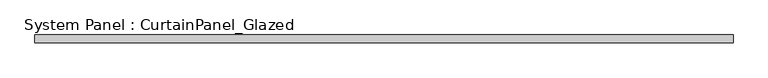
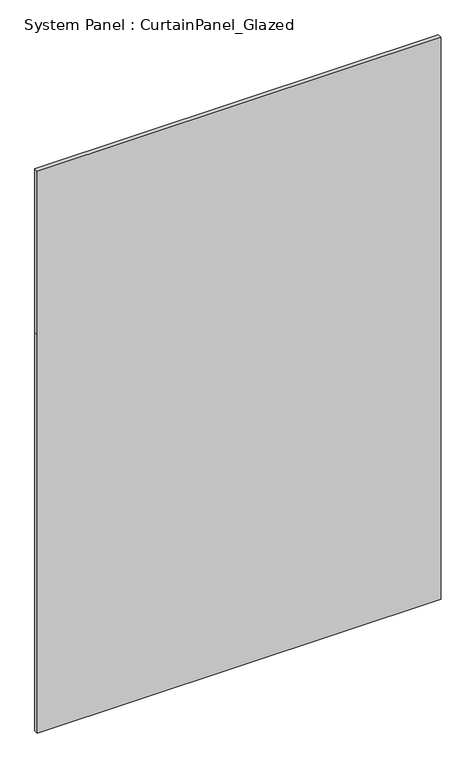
"""IFC4 building model written with IfcOpenShell, lengths in millimetres: plate geometry, System Panel : CurtainPanel_Glazed."""

from ifc_helpers import new_model, si_unit, frame, origin, place, context, project, spatial, polyline, outline, extrude, source, transform, mapped, element, save


def system_panel_curtainpanel_glazed_0bb81cda(model_context):
    return source(origin(), model_context, "Body", "SweptSolid", [
        extrude(outline(polyline([(0.0, -1138.6000001), (0.0, 1138.6000001), (2375.0, 1138.6000001), (3350.0, 1138.6000001), (3350.0, -1138.6000001), (2375.0, -1138.6000001), (0.0, -1138.6000001)])), frame((0.0, -12.5, 0.0), z_axis=(0.0, 1.0, 0.0), x_axis=(0.0, 0.0, 1.0)), (0.0, 0.0, 1.0), 25.0),
    ])


if __name__ == "__main__":
    model = new_model("IFC4")
    model_context = context("Model", 3, world=origin())
    ifc_project = project(units=[si_unit("LENGTHUNIT", "METRE", prefix="MILLI")], contexts=[model_context])
    site = spatial("IfcSite", under=ifc_project)
    building = spatial("IfcBuilding", under=site)
    placement = place(None, origin())
    system_panel_curtainpanel_glazed_shape = system_panel_curtainpanel_glazed_0bb81cda(model_context)
    element("IfcPlate", 1, ObjectType="System Panel : CurtainPanel_Glazed", at=placement, inside=building, context=model_context, shape_type="MappedRepresentation", body=[
        mapped(system_panel_curtainpanel_glazed_shape, transform((0.0, 0.0, 0.0), x_axis=(1.0, 0.0, 0.0), y_axis=(0.0, 1.0, 0.0), z_axis=(0.0, 0.0, 1.0))),
    ])
    save(model, "model.ifc")
